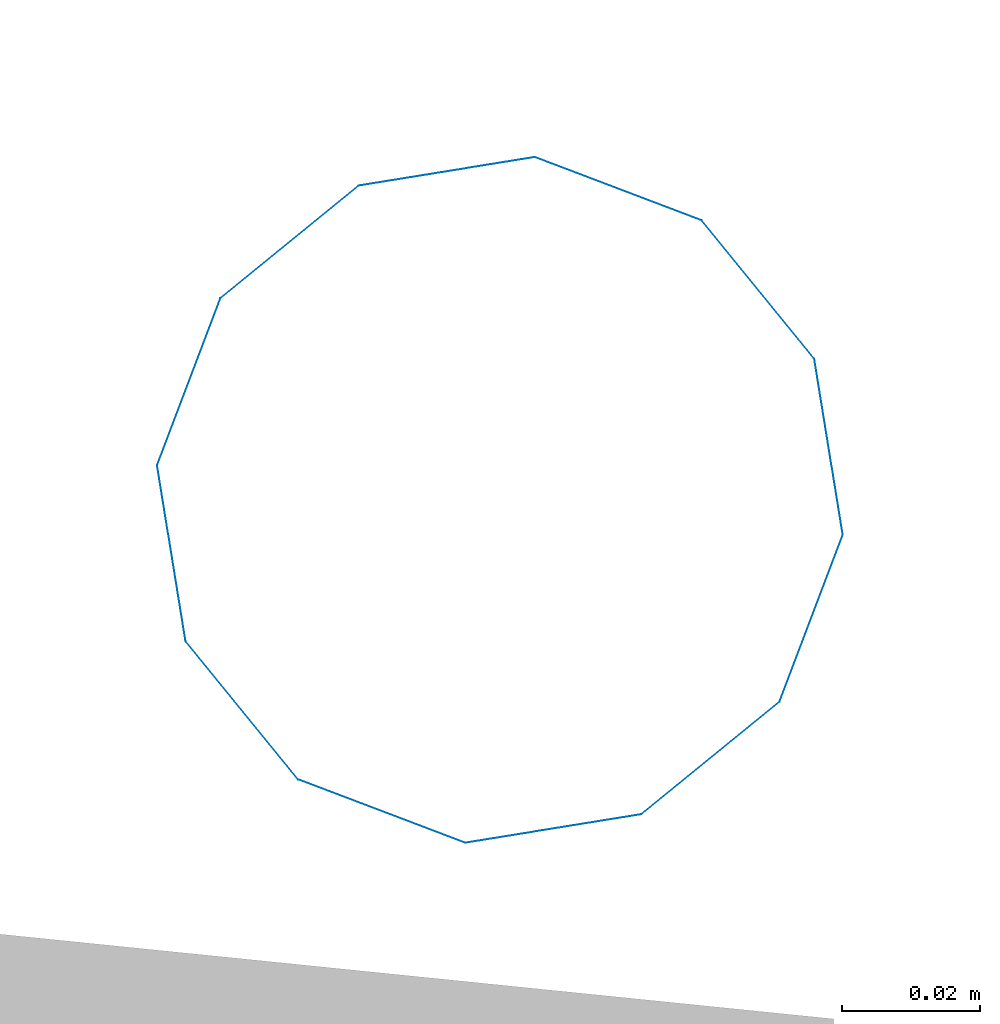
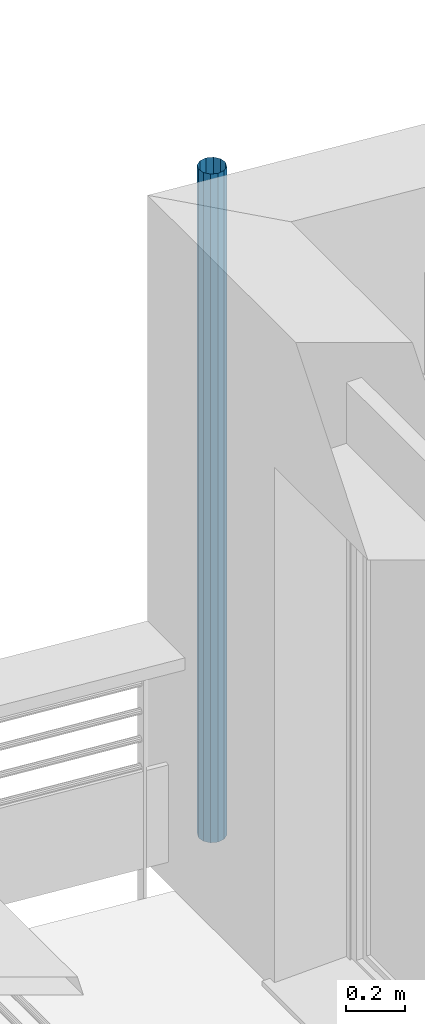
# One storey, part 100 of 171: 1 discrete accessory.
"""IFC2X3 building model written with IfcOpenShell, lengths in millimetres."""

from ifc_helpers import new_model, entity, si_unit, converted_unit, derived_unit, money_unit, direction, frame, origin_with_axes, place, context, subcontext, project, spatial, open_shell, surface_model, source, transform, mapped, type_object, element, save


model = new_model("IFC2X3")

# Units and contexts
model_context = context("Model", 3, precision=0.01, world=origin_with_axes(), true_north=direction((0.0, 1.0)))
body_context = subcontext(model_context, "Body", "Model", "MODEL_VIEW")
ifc_project = project(units=[si_unit("LENGTHUNIT", "METRE", prefix="MILLI"), si_unit("AREAUNIT", "SQUARE_METRE"), si_unit("VOLUMEUNIT", "CUBIC_METRE"), converted_unit("PLANEANGLEUNIT", "DEGREE", entity("IfcPlaneAngleMeasure", 0.0174532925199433), si_unit("PLANEANGLEUNIT", "RADIAN"), dimensions=[0, 0, 0, 0, 0, 0, 0]), money_unit("USD"), converted_unit("TIMEUNIT", "Year", entity("IfcTimeMeasure", 31557600.0), si_unit("TIMEUNIT", "SECOND"), dimensions=[0, 0, 1, 0, 0, 0, 0]), si_unit("MASSUNIT", "GRAM", prefix="KILO"), si_unit("THERMODYNAMICTEMPERATUREUNIT", "DEGREE_CELSIUS"), si_unit("LUMINOUSINTENSITYUNIT", "LUMEN"), si_unit("ENERGYUNIT", "JOULE", prefix="MEGA"), derived_unit("THERMALCONDUCTANCEUNIT", [(si_unit("POWERUNIT", "WATT"), 1), (si_unit("LENGTHUNIT", "METRE"), -1), (si_unit("THERMODYNAMICTEMPERATUREUNIT", "KELVIN"), -1)]), derived_unit("SPECIFICHEATCAPACITYUNIT", [(si_unit("ENERGYUNIT", "JOULE"), 1), (si_unit("MASSUNIT", "GRAM", prefix="KILO"), -1), (si_unit("THERMODYNAMICTEMPERATUREUNIT", "KELVIN"), -1)]), derived_unit("MASSDENSITYUNIT", [(si_unit("MASSUNIT", "GRAM", prefix="KILO"), 1), (si_unit("VOLUMEUNIT", "CUBIC_METRE"), -1)])], contexts=[model_context])

# Site, building, storey
site_placement = place(None, origin_with_axes())
site = spatial("IfcSite", under=ifc_project, at=site_placement, Name="Site", CompositionType="ELEMENT")
building_placement = place(site_placement, origin_with_axes())
building = spatial("IfcBuilding", under=site, at=building_placement, Name="Bâtiment", CompositionType="ELEMENT")
storey_placement = place(building_placement, frame((0.0, 0.0, 3000.0), z_axis=(0.0, 0.0, 1.0), x_axis=(1.0, 0.0, 0.0)))
storey = spatial("IfcBuildingStorey", under=building, at=storey_placement, Name="rdc", CompositionType="ELEMENT", Elevation=3000.0)

# Discrete accessory
discrete_accessory_type = type_object("IfcDiscreteAccessoryType", Name="Tuyau descente 27")
shared_shape = source(origin_with_axes(), body_context, "Body", "SurfaceModel", [
    surface_model("IfcShellBasedSurfaceModel", [(-50.0, 0.0, 2750.0), (-50.0, 0.0, 0.0), (-43.30127018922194, -25.0, 0.0), (-43.30127018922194, -25.0, 2750.0), (-43.30127018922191, 25.00000000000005, 2750.0), (-43.30127018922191, 25.00000000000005, 0.0), (-25.00000000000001, -43.30127018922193, 0.0), (-25.00000000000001, -43.30127018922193, 2750.0), (-24.99999999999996, 43.30127018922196, 2750.0), (-24.99999999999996, 43.30127018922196, 0.0), (0.0, -50.0, 0.0), (0.0, -50.0, 2750.0), (0.0, 50.0, 2750.0), (0.0, 50.0, 0.0), (24.99999999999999, -43.30127018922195, 0.0), (24.99999999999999, -43.30127018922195, 2750.0), (25.00000000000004, 43.30127018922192, 2750.0), (25.00000000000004, 43.30127018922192, 0.0), (43.30127018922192, -25.00000000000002, 0.0), (43.30127018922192, -25.00000000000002, 2750.0), (43.30127018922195, 24.99999999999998, 2750.0), (43.30127018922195, 24.99999999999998, 0.0), (50.0, 0.0, 0.0), (50.0, 0.0, 2750.0)], [open_shell([[[0, 1, 2, 3]], [[4, 5, 1, 0]], [[3, 2, 6, 7]], [[8, 9, 5, 4]], [[7, 6, 10, 11]], [[12, 13, 9, 8]], [[11, 10, 14, 15]], [[16, 17, 13, 12]], [[15, 14, 18, 19]], [[20, 21, 17, 16]], [[19, 18, 22, 23]], [[23, 22, 21, 20]]])]),
])
discrete_accessory_placement = place(storey_placement, frame((2218409.139648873, -603953.0508855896, 0.0), z_axis=(0.0, 0.0, 1.0), x_axis=(-0.9948759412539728, 0.1011032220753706, 0.0)))
element("IfcDiscreteAccessory", 1, at=discrete_accessory_placement, inside=storey, type_object=discrete_accessory_type, Name="Obj.-318", context=body_context, shape_type="MappedRepresentation", body=[
    mapped(shared_shape, transform((0.0, 0.0, 0.0))),
])

save(model, "model.ifc")
